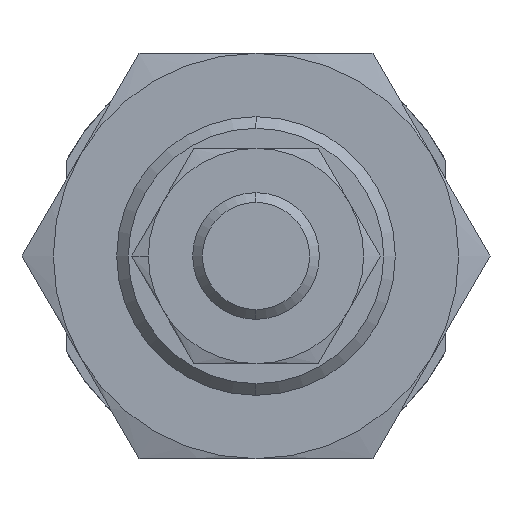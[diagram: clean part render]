
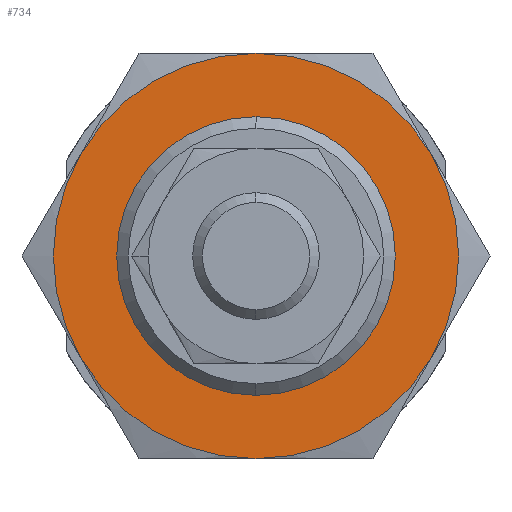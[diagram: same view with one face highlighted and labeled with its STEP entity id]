
A CAD part, left-side view. The second image highlights one B-rep face of the part: STEP entity #734.
In plain terms, the highlighted planar face has unit normal (-1, 0, 0).
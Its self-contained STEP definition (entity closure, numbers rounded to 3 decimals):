
#147 = VERTEX_POINT ( 'NONE', #531 ) ;
#217 = FACE_BOUND ( 'NONE', #1822, .T. ) ;
#353 = EDGE_CURVE ( 'NONE', #3484, #1535, #3600, .T. ) ;
#481 = AXIS2_PLACEMENT_3D ( 'NONE', #1486, #1503, #2814 ) ;
#531 = CARTESIAN_POINT ( 'NONE',  ( -17.5, -13.856, -8. ) ) ;
#585 = AXIS2_PLACEMENT_3D ( 'NONE', #2977, #3023, #2676 ) ;
#620 = DIRECTION ( 'NONE',  ( 0., 0., -1. ) ) ;
#639 = CARTESIAN_POINT ( 'NONE',  ( -17.5, 13.856, 8. ) ) ;
#666 = CIRCLE ( 'NONE', #4118, 16. ) ;
#734 = ADVANCED_FACE ( 'NONE', ( #1184, #217 ), #3825, .T. ) ;
#740 = CARTESIAN_POINT ( 'NONE',  ( -17.5, 0., 0. ) ) ;
#812 = EDGE_CURVE ( 'NONE', #3776, #4011, #4206, .T. ) ;
#826 = CARTESIAN_POINT ( 'NONE',  ( -17.5, 0., -11. ) ) ;
#853 = CARTESIAN_POINT ( 'NONE',  ( -17.5, 0., 0. ) ) ;
#859 = CARTESIAN_POINT ( 'NONE',  ( -17.5, -13.856, 8. ) ) ;
#876 = DIRECTION ( 'NONE',  ( 0., 0., -1. ) ) ;
#934 = EDGE_CURVE ( 'NONE', #1535, #3145, #1198, .T. ) ;
#1184 = FACE_OUTER_BOUND ( 'NONE', #1987, .T. ) ;
#1198 = CIRCLE ( 'NONE', #3074, 16. ) ;
#1205 = CIRCLE ( 'NONE', #3633, 16. ) ;
#1407 = DIRECTION ( 'NONE',  ( 0., 0., -1. ) ) ;
#1437 = ORIENTED_EDGE ( 'NONE', *, *, #353, .F. ) ;
#1457 = DIRECTION ( 'NONE',  ( 0., 0., -1. ) ) ;
#1486 = CARTESIAN_POINT ( 'NONE',  ( -17.5, 0., 0. ) ) ;
#1493 = ORIENTED_EDGE ( 'NONE', *, *, #2031, .F. ) ;
#1503 = DIRECTION ( 'NONE',  ( 1., 0., 0. ) ) ;
#1535 = VERTEX_POINT ( 'NONE', #3414 ) ;
#1576 = ORIENTED_EDGE ( 'NONE', *, *, #2319, .F. ) ;
#1600 = VERTEX_POINT ( 'NONE', #859 ) ;
#1822 = EDGE_LOOP ( 'NONE', ( #3622, #2536 ) ) ;
#1878 = AXIS2_PLACEMENT_3D ( 'NONE', #3458, #2188, #3216 ) ;
#1898 = CIRCLE ( 'NONE', #585, 16. ) ;
#1943 = DIRECTION ( 'NONE',  ( 1., 0., 0. ) ) ;
#1987 = EDGE_LOOP ( 'NONE', ( #2420, #1437, #1576, #3084, #1493, #2312 ) ) ;
#2031 = EDGE_CURVE ( 'NONE', #3186, #1600, #4114, .T. ) ;
#2088 = DIRECTION ( 'NONE',  ( 1., 0., 0. ) ) ;
#2188 = DIRECTION ( 'NONE',  ( -1., 0., 0. ) ) ;
#2312 = ORIENTED_EDGE ( 'NONE', *, *, #2546, .F. ) ;
#2319 = EDGE_CURVE ( 'NONE', #147, #3484, #1898, .T. ) ;
#2343 = CARTESIAN_POINT ( 'NONE',  ( -17.5, 0., 16. ) ) ;
#2344 = CARTESIAN_POINT ( 'NONE',  ( -17.5, 0., 0. ) ) ;
#2381 = DIRECTION ( 'NONE',  ( 1., 0., 0. ) ) ;
#2420 = ORIENTED_EDGE ( 'NONE', *, *, #934, .F. ) ;
#2451 = DIRECTION ( 'NONE',  ( 0., 0., -1. ) ) ;
#2536 = ORIENTED_EDGE ( 'NONE', *, *, #812, .T. ) ;
#2546 = EDGE_CURVE ( 'NONE', #3145, #3186, #1205, .T. ) ;
#2605 = CARTESIAN_POINT ( 'NONE',  ( -17.5, 0., 11. ) ) ;
#2676 = DIRECTION ( 'NONE',  ( 0., 0., -1. ) ) ;
#2713 = CARTESIAN_POINT ( 'NONE',  ( -17.5, 0., 0. ) ) ;
#2814 = DIRECTION ( 'NONE',  ( 0., 0., -1. ) ) ;
#2839 = EDGE_CURVE ( 'NONE', #4011, #3776, #4260, .T. ) ;
#2875 = AXIS2_PLACEMENT_3D ( 'NONE', #2713, #2088, #2451 ) ;
#2880 = DIRECTION ( 'NONE',  ( 1., 0., 0. ) ) ;
#2977 = CARTESIAN_POINT ( 'NONE',  ( -17.5, 0., 0. ) ) ;
#3023 = DIRECTION ( 'NONE',  ( 1., 0., 0. ) ) ;
#3074 = AXIS2_PLACEMENT_3D ( 'NONE', #2344, #3331, #620 ) ;
#3084 = ORIENTED_EDGE ( 'NONE', *, *, #3470, .F. ) ;
#3141 = AXIS2_PLACEMENT_3D ( 'NONE', #853, #1943, #876 ) ;
#3145 = VERTEX_POINT ( 'NONE', #639 ) ;
#3179 = DIRECTION ( 'NONE',  ( 0., 0., -1. ) ) ;
#3186 = VERTEX_POINT ( 'NONE', #2343 ) ;
#3216 = DIRECTION ( 'NONE',  ( 0., 0., 1. ) ) ;
#3331 = DIRECTION ( 'NONE',  ( 1., 0., 0. ) ) ;
#3376 = DIRECTION ( 'NONE',  ( 1., 0., 0. ) ) ;
#3414 = CARTESIAN_POINT ( 'NONE',  ( -17.5, 13.856, -8. ) ) ;
#3458 = CARTESIAN_POINT ( 'NONE',  ( -17.5, 16., 0. ) ) ;
#3470 = EDGE_CURVE ( 'NONE', #1600, #147, #666, .T. ) ;
#3484 = VERTEX_POINT ( 'NONE', #3555 ) ;
#3501 = CARTESIAN_POINT ( 'NONE',  ( -17.5, 0., 0. ) ) ;
#3555 = CARTESIAN_POINT ( 'NONE',  ( -17.5, 0., -16. ) ) ;
#3600 = CIRCLE ( 'NONE', #3870, 16. ) ;
#3622 = ORIENTED_EDGE ( 'NONE', *, *, #2839, .T. ) ;
#3633 = AXIS2_PLACEMENT_3D ( 'NONE', #3501, #2880, #3179 ) ;
#3776 = VERTEX_POINT ( 'NONE', #826 ) ;
#3825 = PLANE ( 'NONE',  #1878 ) ;
#3870 = AXIS2_PLACEMENT_3D ( 'NONE', #4018, #2381, #1457 ) ;
#4011 = VERTEX_POINT ( 'NONE', #2605 ) ;
#4018 = CARTESIAN_POINT ( 'NONE',  ( -17.5, 0., 0. ) ) ;
#4114 = CIRCLE ( 'NONE', #3141, 16. ) ;
#4118 = AXIS2_PLACEMENT_3D ( 'NONE', #740, #3376, #1407 ) ;
#4206 = CIRCLE ( 'NONE', #481, 11. ) ;
#4260 = CIRCLE ( 'NONE', #2875, 11. ) ;
